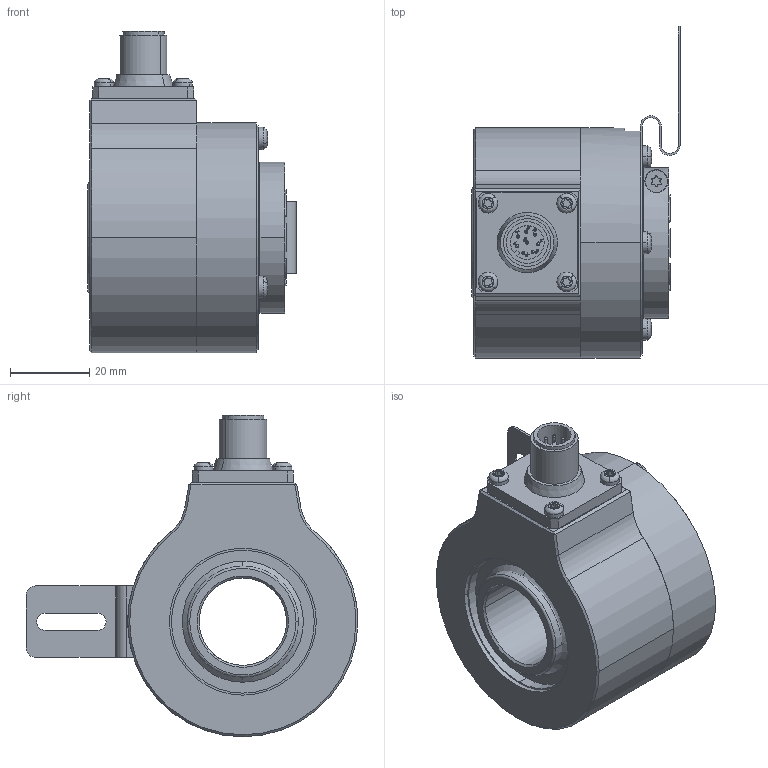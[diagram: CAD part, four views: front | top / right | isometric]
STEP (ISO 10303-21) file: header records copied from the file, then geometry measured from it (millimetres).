
FILE_DESCRIPTION (( 'STEP AP203' ), '1' );
FILE_NAME ('K58I.OXX.XXXXX.XH15525.XXRC5.step', '2025-12-03T08:19:26', ( '' ), ( '' ), 'SwSTEP 2.0', 'SolidWorks 2021', '' );
FILE_SCHEMA (( 'CONFIG_CONTROL_DESIGN' ));
Length unit declared in the file: millimetre
Products named in the file (1): K58I.OXX.XXXXX.XH15525.XXRC5
Bounding box: 52.45 x 83.61 x 81 mm (x, y, z)
Volume: 109944.9 mm3; surface area: 42647.8 mm2
Topology: 7 solids, 7 shells, 611 faces, 1595 edges, 1019 vertices
Faces by surface type: cylinder 269, plane 186, bspline 76, cone 62, sphere 16, torus 2
Entity records: 23708 total; most frequent: CARTESIAN_POINT 9027, ORIENTED_EDGE 3102, DIRECTION 2953, EDGE_CURVE 1551, AXIS2_PLACEMENT_3D 1107, VERTEX_POINT 1003, LINE 739, VECTOR 739
